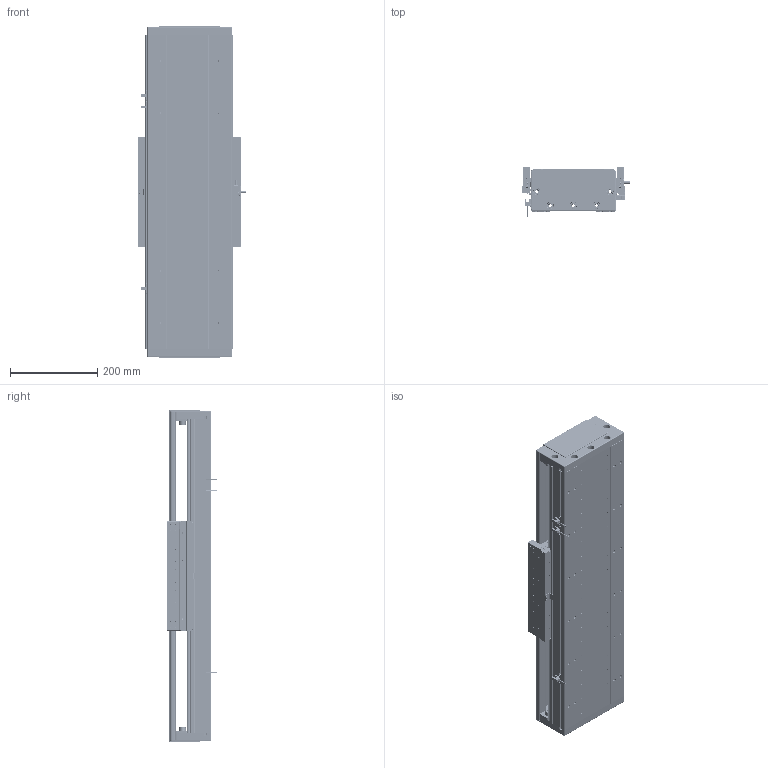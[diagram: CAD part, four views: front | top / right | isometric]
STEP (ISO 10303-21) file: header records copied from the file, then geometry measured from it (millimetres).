
FILE_DESCRIPTION (( 'STEP AP203' ), '1' );
FILE_NAME ('DA-C195-C3-T420-C010-0.2 眻盄萇儂.STEP', '2025-08-15T01:44:01', ( '' ), ( '' ), 'SwSTEP 2.0', 'SolidWorks 2019', '' );
FILE_SCHEMA (( 'CONFIG_CONTROL_DESIGN' ));
Length unit declared in the file: millimetre
Products named in the file (12): 66156-0001-003-00 裔啣; MS200 棠掑喜S315-T240; DA165-GYP-00 光电感应片(默认); DA95-HXJ-00 遣喳砎蝶; CU195-C3賑輸-俋楷; PM-T45ㄗ侂狟ㄘ; IU-CU195-L-00 菁釱(L720); 葩璃 DA95-GT-T-00; LMT黍杅芛; IU-CU195-L 菁釱絳寢; DA195-DG-H-00  端盖（压铸镂空版）; DA-C195-C3-T420-C010-0.2 眻盄萇儂
Assembly tree (20 placements, depth 3):
  DA-C195-C3-T420-C010-0.2 眻盄萇儂
    IU-CU195-L 菁釱絳寢
      IU-CU195-L-00 菁釱(L720)
      葩璃 DA95-GT-T-00  x4
    LMT黍杅芛
    MS200 棠掑喜S315-T240
    PM-T45ㄗ侂狟ㄘ  x3
    DA165-GYP-00 光电感应片(默认)
    DA195-DG-H-00  端盖（压铸镂空版）  x2
    DA95-HXJ-00 遣喳砎蝶  x4
    66156-0001-003-00 裔啣
    CU195-C3賑輸-俋楷
Bounding box: 248 x 115.6 x 760 mm (x, y, z)
Volume: 6242870.2 mm3; surface area: 1737238.9 mm2
Topology: 78 solids, 118 shells, 5005 faces, 12616 edges, 7635 vertices
Faces by surface type: cylinder 2080, plane 1591, bspline 710, cone 544, torus 44, sphere 36
Entity records: 134185 total; most frequent: CARTESIAN_POINT 40849, ORIENTED_EDGE 19318, DIRECTION 18854, EDGE_CURVE 9659, AXIS2_PLACEMENT_3D 6999, VERTEX_POINT 6065, LINE 4856, VECTOR 4856
